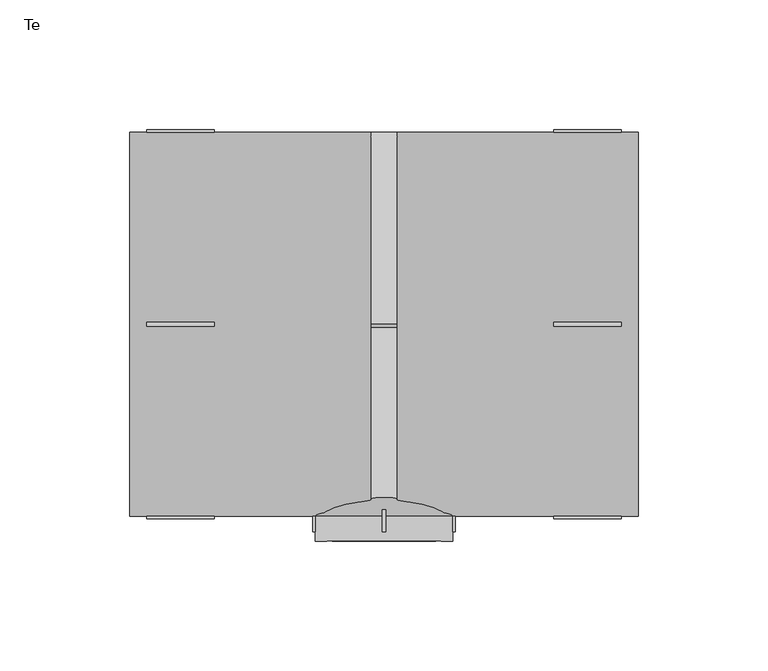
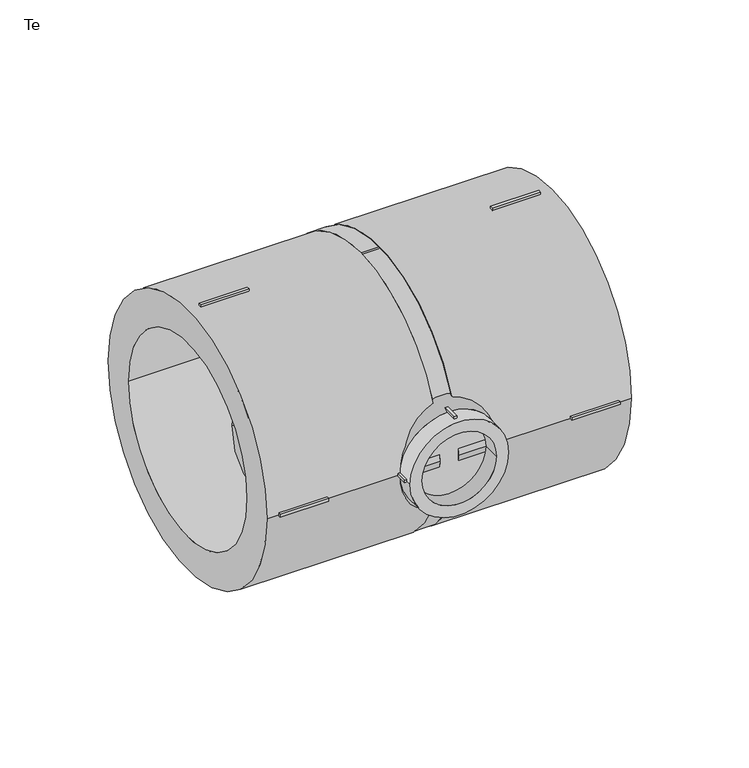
"""IFC4 building model written with IfcOpenShell, lengths in millimetres: pipe fitting geometry, EGB_VASEN_ PPR_Te WXR300_Te reducida WXR310 : Te."""

from ifc_helpers import new_model, si_unit, point, frame, origin, origin_2d, place, context, project, spatial, polyline, circle_curve, trimmed, segment, composite_curve, outline, extrude, source, transform, mapped, element, save
from ifc_brep_helpers import plane_surface, revolved_surface, advanced_brep


def te_35745fb5(model_context):
    return source(origin(), model_context, "Body", "SolidModel", [
        extrude(outline(polyline([(-0.75, -65.5), (0.75, -65.5), (0.75, -79.9), (-0.75, -79.9), (-0.75, -65.5)])), frame((0.0, 0.0, 25.5), z_axis=(0.0, 0.0, 1.0), x_axis=(1.0, 0.0, 0.0)), (0.0, 0.0, 1.0), 2.0),
        extrude(outline(polyline([(-0.75, -65.5), (0.75, -65.5), (0.75, -79.9), (-0.75, -79.9), (-0.75, -65.5)])), frame((0.0, 0.0, -27.5), z_axis=(0.0, 0.0, 1.0), x_axis=(1.0, 0.0, 0.0)), (0.0, 0.0, 1.0), 2.0),
        extrude(outline(polyline([(25.5, -65.5), (27.5, -65.5), (27.5, -79.9), (25.5, -79.9), (25.5, -65.5)])), frame((0.0, 0.0, -0.75), z_axis=(0.0, 0.0, 1.0), x_axis=(1.0, 0.0, 0.0)), (0.0, 0.0, 1.0), 1.5),
        extrude(outline(polyline([(-27.5, -65.5), (-25.5, -65.5), (-25.5, -79.9), (-27.5, -79.9), (-27.5, -65.5)])), frame((0.0, 0.0, -0.75), z_axis=(0.0, 0.0, 1.0), x_axis=(1.0, 0.0, 0.0)), (0.0, 0.0, 1.0), 1.5),
        extrude(outline(polyline([(65.5, -0.75), (65.5, 0.75), (91.5, 0.75), (91.5, -0.75), (65.5, -0.75)])), frame((0.0, 0.0, 73.0), z_axis=(0.0, 0.0, 1.0), x_axis=(1.0, 0.0, 0.0)), (0.0, 0.0, 1.0), 2.0),
        extrude(outline(polyline([(65.5, -0.75), (65.5, 0.75), (91.5, 0.75), (91.5, -0.75), (65.5, -0.75)])), frame((0.0, 0.0, -75.0), z_axis=(0.0, 0.0, 1.0), x_axis=(1.0, 0.0, 0.0)), (0.0, 0.0, 1.0), 2.0),
        extrude(outline(polyline([(65.5, 73.0), (65.5, 75.0), (91.5, 75.0), (91.5, 73.0), (65.5, 73.0)])), frame((0.0, 0.0, -0.75), z_axis=(0.0, 0.0, 1.0), x_axis=(1.0, 0.0, 0.0)), (0.0, 0.0, 1.0), 1.5),
        extrude(outline(polyline([(65.5, -75.0), (65.5, -73.0), (91.5, -73.0), (91.5, -75.0), (65.5, -75.0)])), frame((0.0, 0.0, -0.75), z_axis=(0.0, 0.0, 1.0), x_axis=(1.0, 0.0, 0.0)), (0.0, 0.0, 1.0), 1.5),
        extrude(outline(polyline([(-65.5, 0.75), (-65.5, -0.75), (-91.5, -0.75), (-91.5, 0.75), (-65.5, 0.75)])), frame((0.0, 0.0, 73.0), z_axis=(0.0, 0.0, 1.0), x_axis=(1.0, 0.0, 0.0)), (0.0, 0.0, 1.0), 2.0),
        extrude(outline(polyline([(-65.5, 0.75), (-65.5, -0.75), (-91.5, -0.75), (-91.5, 0.75), (-65.5, 0.75)])), frame((0.0, 0.0, -75.0), z_axis=(0.0, 0.0, 1.0), x_axis=(1.0, 0.0, 0.0)), (0.0, 0.0, 1.0), 2.0),
        extrude(outline(polyline([(-65.5, 75.0), (-65.5, 73.0), (-91.5, 73.0), (-91.5, 75.0), (-65.5, 75.0)])), frame((0.0, 0.0, -0.75), z_axis=(0.0, 0.0, 1.0), x_axis=(1.0, 0.0, 0.0)), (0.0, 0.0, 1.0), 1.5),
        extrude(outline(polyline([(-65.5, -73.0), (-65.5, -75.0), (-91.5, -75.0), (-91.5, -73.0), (-65.5, -73.0)])), frame((0.0, 0.0, -0.75), z_axis=(0.0, 0.0, 1.0), x_axis=(1.0, 0.0, 0.0)), (0.0, 0.0, 1.0), 1.5),
        extrude(outline(composite_curve([segment(trimmed(circle_curve(origin_2d(), 26.5), [point((0.0, 26.5))], [point((0.0, -26.5))], False, "CARTESIAN"), True, "CONTINUOUS"), segment(trimmed(circle_curve(origin_2d(), 26.5), [point((0.0, -26.5))], [point((0.0, 26.5))], False, "CARTESIAN"), True, "CONTINUOUS")], self_intersect=False), holes=[composite_curve([segment(trimmed(circle_curve(origin_2d(), 20.0), [point((0.0, 20.0))], [point((0.0, -20.0))], True, "CARTESIAN"), True, "CONTINUOUS"), segment(trimmed(circle_curve(origin_2d(), 20.0), [point((0.0, -20.0))], [point((0.0, 20.0))], True, "CARTESIAN"), True, "CONTINUOUS")], self_intersect=False)]), frame((0.0, -83.5, 0.0), z_axis=(0.0, 1.0, 0.0), x_axis=(0.0, 0.0, 1.0)), (0.0, 0.0, 1.0), 9.5),
        extrude(outline(composite_curve([segment(trimmed(circle_curve(origin_2d(), 74.0), [point((-74.0, 0.0))], [point((74.0, 0.0))], False, "CARTESIAN"), True, "CONTINUOUS"), segment(trimmed(circle_curve(origin_2d(), 74.0), [point((74.0, 0.0))], [point((-74.0, 0.0))], False, "CARTESIAN"), True, "CONTINUOUS")], self_intersect=False), holes=[composite_curve([segment(trimmed(circle_curve(origin_2d(), 55.0), [point((-55.0, 0.0))], [point((55.0, 0.0))], True, "CARTESIAN"), True, "CONTINUOUS"), segment(trimmed(circle_curve(origin_2d(), 55.0), [point((55.0, 0.0))], [point((-55.0, 0.0))], True, "CARTESIAN"), True, "CONTINUOUS")], self_intersect=False)]), frame((5.04, 0.0, 0.0), z_axis=(1.0, 0.0, 0.0), x_axis=(0.0, 1.0, 0.0)), (0.0, 0.0, 1.0), 92.96),
        extrude(outline(composite_curve([segment(trimmed(circle_curve(origin_2d(), 74.0), [point((-74.0, 0.0))], [point((74.0, 0.0))], False, "CARTESIAN"), True, "CONTINUOUS"), segment(trimmed(circle_curve(origin_2d(), 74.0), [point((74.0, 0.0))], [point((-74.0, 0.0))], False, "CARTESIAN"), True, "CONTINUOUS")], self_intersect=False), holes=[composite_curve([segment(trimmed(circle_curve(origin_2d(), 55.0), [point((-55.0, 0.0))], [point((55.0, 0.0))], True, "CARTESIAN"), True, "CONTINUOUS"), segment(trimmed(circle_curve(origin_2d(), 55.0), [point((55.0, 0.0))], [point((-55.0, 0.0))], True, "CARTESIAN"), True, "CONTINUOUS")], self_intersect=False)]), frame((-98.0, 0.0, 0.0), z_axis=(1.0, 0.0, 0.0), x_axis=(0.0, 1.0, 0.0)), (0.0, 0.0, 1.0), 92.96),
        advanced_brep(
        [(74.0, 0.0, 0.0), (-74.0, 0.0, 0.0), (26.5, -74.0, 0.0), (-26.5, -74.0, 0.0)],
        [
            (0, 1, circle_curve(frame((0.0, 0.0, 0.0), z_axis=(0.0, 1.0, 0.0), x_axis=(1.0, 0.0, 0.0)), 74.0)),
            (1, 0, circle_curve(frame((0.0, 0.0, 0.0), z_axis=(0.0, 1.0, 0.0), x_axis=(-1.0, 0.0, 0.0)), 74.0)),
            (2, 3, circle_curve(frame((0.0, -74.0, 0.0), z_axis=(0.0, -1.0, 0.0), x_axis=(-1.0, 0.0, 0.0)), 26.5)),
            (3, 2, circle_curve(frame((0.0, -74.0, 0.0), z_axis=(0.0, -1.0, 0.0), x_axis=(1.0, 0.0, 0.0)), 26.5)),
            (3, 1),
            (0, 2),
        ],
        [
            plane_surface(frame((0.0, 0.0, 0.0), z_axis=(0.0, 1.0, 0.0), x_axis=(0.0, 0.0, -1.0))),
            plane_surface(frame((0.0, -74.0, 0.0), z_axis=(0.0, -1.0, 0.0), x_axis=(0.0, 0.0, -1.0))),
            revolved_surface(polyline([(-26.49999998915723, -74.0, 0.0), (-74.0, 0.0, 0.0)]), (0.0, -115.2842105, 0.0), (0.0, 1.0, 0.0)),
            revolved_surface(polyline([(26.49999998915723, -74.0, 0.0), (74.0, 0.0, 0.0)]), (0.0, -115.2842105, 0.0), (0.0, 1.0, 0.0)),
        ],
        [
            (0, [[1, 2]]),
            (1, [[3, 4]]),
            (2, [[-4, 5, -1, 6]]),
            (3, [[-3, -6, -2, -5]]),
        ],
    ),
        extrude(outline(composite_curve([segment(trimmed(circle_curve(origin_2d(), 74.0), [point((-74.0, 0.0))], [point((74.0, 0.0))], False, "CARTESIAN"), True, "CONTINUOUS"), segment(trimmed(circle_curve(origin_2d(), 74.0), [point((74.0, 0.0))], [point((-74.0, 0.0))], False, "CARTESIAN"), True, "CONTINUOUS")], self_intersect=False)), frame((-5.04, 0.0, 0.0), z_axis=(1.0, 0.0, 0.0), x_axis=(0.0, 1.0, 0.0)), (0.0, 0.0, 1.0), 10.08),
    ])


if __name__ == "__main__":
    model = new_model("IFC4")
    model_context = context("Model", 3, world=origin())
    ifc_project = project(units=[si_unit("LENGTHUNIT", "METRE", prefix="MILLI")], contexts=[model_context])
    site = spatial("IfcSite", under=ifc_project)
    building = spatial("IfcBuilding", under=site)
    placement = place(None, origin())
    te_shape = te_35745fb5(model_context)
    element("IfcPipeFitting", 1, ObjectType="EGB_VASEN_ PPR_Te WXR300_Te reducida WXR310 : Te", at=placement, inside=building, context=model_context, shape_type="MappedRepresentation", body=[
        mapped(te_shape, transform((0.0, 0.0, 0.0), x_axis=(1.0, 0.0, 0.0), y_axis=(0.0, 1.0, 0.0), z_axis=(0.0, 0.0, 1.0))),
    ])
    save(model, "model.ifc")
